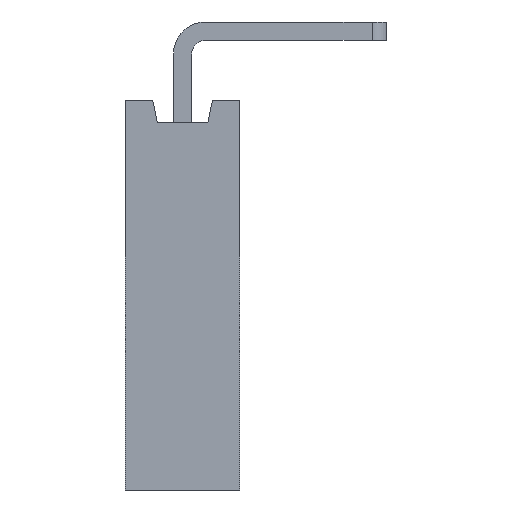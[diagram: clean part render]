
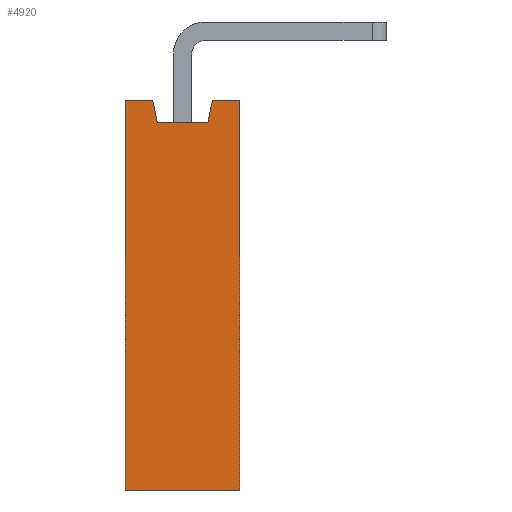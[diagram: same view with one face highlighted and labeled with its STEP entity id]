
A CAD part, left-side view. The second image highlights one B-rep face of the part: STEP entity #4920.
In plain terms, the highlighted planar face has unit normal (-1, 0, 0).
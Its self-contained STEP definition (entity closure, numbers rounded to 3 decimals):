
#244 = CARTESIAN_POINT ( 'NONE',  ( -0.1, 2.5, 0. ) ) ;
#348 = CARTESIAN_POINT ( 'NONE',  ( -0.1, 0.6, 8.5 ) ) ;
#791 = CARTESIAN_POINT ( 'NONE',  ( -0.1, 1.875, 8. ) ) ;
#811 = EDGE_CURVE ( 'NONE', #12381, #4938, #10866, .T. ) ;
#1129 = DIRECTION ( 'NONE',  ( 0., -1., 0. ) ) ;
#1233 = CARTESIAN_POINT ( 'NONE',  ( -0.1, 2.5, 0. ) ) ;
#1700 = ORIENTED_EDGE ( 'NONE', *, *, #2600, .F. ) ;
#1703 = VERTEX_POINT ( 'NONE', #6753 ) ;
#2077 = EDGE_LOOP ( 'NONE', ( #11508, #8714, #1700, #3148, #12169, #2081, #3526, #9077 ) ) ;
#2081 = ORIENTED_EDGE ( 'NONE', *, *, #2873, .T. ) ;
#2278 = VECTOR ( 'NONE', #5147, 1000. ) ;
#2429 = DIRECTION ( 'NONE',  ( -1., 0., 0. ) ) ;
#2600 = EDGE_CURVE ( 'NONE', #4805, #4938, #6572, .T. ) ;
#2873 = EDGE_CURVE ( 'NONE', #13007, #5123, #11028, .T. ) ;
#2919 = LINE ( 'NONE', #8251, #9981 ) ;
#3148 = ORIENTED_EDGE ( 'NONE', *, *, #4361, .F. ) ;
#3526 = ORIENTED_EDGE ( 'NONE', *, *, #7984, .T. ) ;
#3536 = DIRECTION ( 'NONE',  ( 0., 0., 1. ) ) ;
#4361 = EDGE_CURVE ( 'NONE', #1703, #4805, #2919, .T. ) ;
#4709 = CARTESIAN_POINT ( 'NONE',  ( -0.1, 1.069, 4.346 ) ) ;
#4805 = VERTEX_POINT ( 'NONE', #10121 ) ;
#4858 = DIRECTION ( 'NONE',  ( 0., 1., 0. ) ) ;
#4920 = ADVANCED_FACE ( 'NONE', ( #5371 ), #9504, .T. ) ;
#4938 = VERTEX_POINT ( 'NONE', #6497 ) ;
#5123 = VERTEX_POINT ( 'NONE', #5886 ) ;
#5147 = DIRECTION ( 'NONE',  ( 0., -1., 0. ) ) ;
#5371 = FACE_OUTER_BOUND ( 'NONE', #2077, .T. ) ;
#5433 = DIRECTION ( 'NONE',  ( 0., 0., 1. ) ) ;
#5493 = EDGE_CURVE ( 'NONE', #6503, #8780, #11144, .T. ) ;
#5609 = LINE ( 'NONE', #8665, #11742 ) ;
#5886 = CARTESIAN_POINT ( 'NONE',  ( -0.1, 0., 0. ) ) ;
#6425 = VECTOR ( 'NONE', #9008, 1000. ) ;
#6497 = CARTESIAN_POINT ( 'NONE',  ( -0.1, 1.8, 8. ) ) ;
#6503 = VERTEX_POINT ( 'NONE', #348 ) ;
#6572 = LINE ( 'NONE', #4709, #10589 ) ;
#6753 = CARTESIAN_POINT ( 'NONE',  ( -0.1, 2.5, 8.5 ) ) ;
#6851 = VECTOR ( 'NONE', #4858, 1000. ) ;
#7148 = CARTESIAN_POINT ( 'NONE',  ( -0.1, 2.5, 0. ) ) ;
#7806 = CARTESIAN_POINT ( 'NONE',  ( -0.1, 0.7, 8. ) ) ;
#7984 = EDGE_CURVE ( 'NONE', #5123, #8780, #5609, .T. ) ;
#8251 = CARTESIAN_POINT ( 'NONE',  ( -0.1, 2.5, 8.5 ) ) ;
#8499 = CARTESIAN_POINT ( 'NONE',  ( -0.1, 0., 8.5 ) ) ;
#8558 = DIRECTION ( 'NONE',  ( 0., -0.196, 0.981 ) ) ;
#8665 = CARTESIAN_POINT ( 'NONE',  ( -0.1, 0., 0. ) ) ;
#8714 = ORIENTED_EDGE ( 'NONE', *, *, #811, .T. ) ;
#8760 = LINE ( 'NONE', #12854, #10403 ) ;
#8780 = VERTEX_POINT ( 'NONE', #8499 ) ;
#9008 = DIRECTION ( 'NONE',  ( 0., 0., 1. ) ) ;
#9077 = ORIENTED_EDGE ( 'NONE', *, *, #5493, .F. ) ;
#9208 = VECTOR ( 'NONE', #1129, 1000. ) ;
#9266 = CARTESIAN_POINT ( 'NONE',  ( -0.1, 2.5, 8.5 ) ) ;
#9308 = EDGE_CURVE ( 'NONE', #13007, #1703, #12958, .T. ) ;
#9504 = PLANE ( 'NONE',  #11697 ) ;
#9981 = VECTOR ( 'NONE', #11142, 1000. ) ;
#10081 = CARTESIAN_POINT ( 'NONE',  ( -0.1, 2.5, 0. ) ) ;
#10121 = CARTESIAN_POINT ( 'NONE',  ( -0.1, 1.9, 8.5 ) ) ;
#10403 = VECTOR ( 'NONE', #8558, 1000. ) ;
#10589 = VECTOR ( 'NONE', #10652, 1000. ) ;
#10652 = DIRECTION ( 'NONE',  ( 0., -0.196, -0.981 ) ) ;
#10866 = LINE ( 'NONE', #791, #6851 ) ;
#11028 = LINE ( 'NONE', #7148, #2278 ) ;
#11142 = DIRECTION ( 'NONE',  ( 0., -1., 0. ) ) ;
#11144 = LINE ( 'NONE', #9266, #9208 ) ;
#11508 = ORIENTED_EDGE ( 'NONE', *, *, #11848, .F. ) ;
#11697 = AXIS2_PLACEMENT_3D ( 'NONE', #1233, #2429, #5433 ) ;
#11742 = VECTOR ( 'NONE', #3536, 1000. ) ;
#11848 = EDGE_CURVE ( 'NONE', #12381, #6503, #8760, .T. ) ;
#12169 = ORIENTED_EDGE ( 'NONE', *, *, #9308, .F. ) ;
#12381 = VERTEX_POINT ( 'NONE', #7806 ) ;
#12854 = CARTESIAN_POINT ( 'NONE',  ( -0.1, 1.479, 4.106 ) ) ;
#12958 = LINE ( 'NONE', #10081, #6425 ) ;
#13007 = VERTEX_POINT ( 'NONE', #244 ) ;
